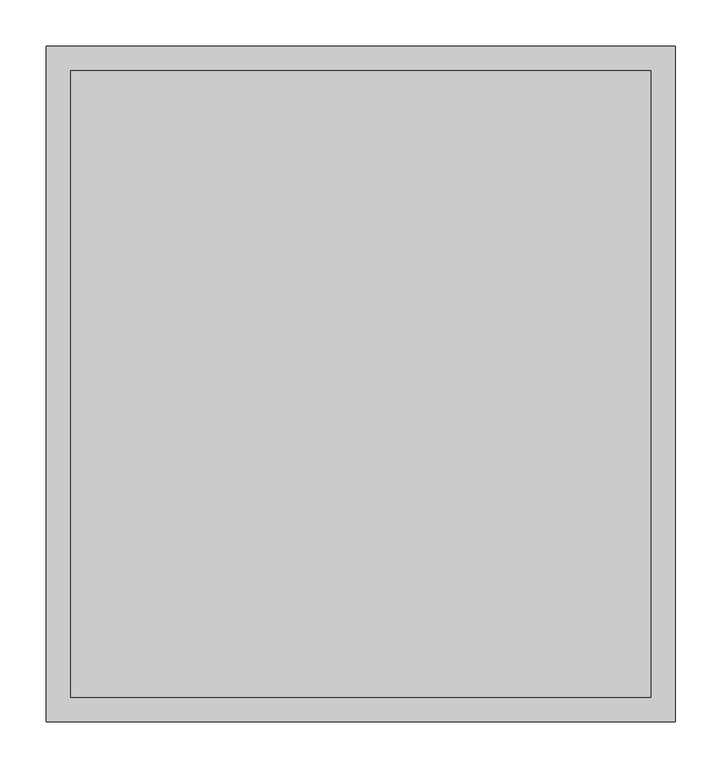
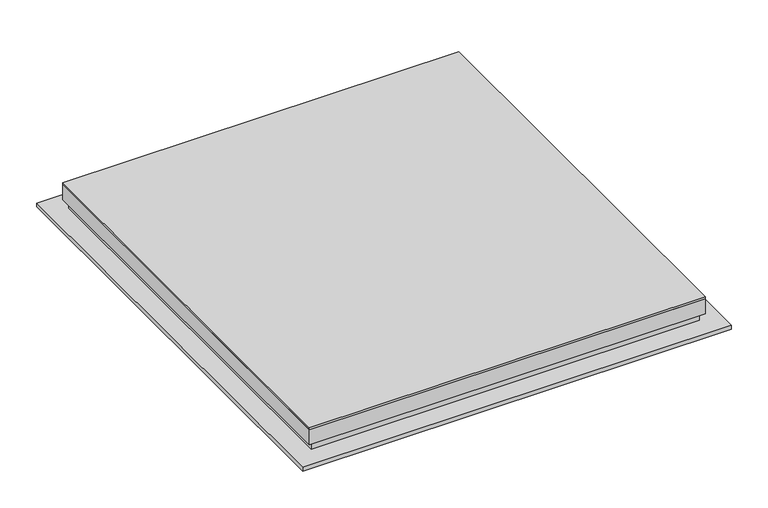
"""IFC4 building model written with IfcOpenShell, lengths in millimetres: furniture geometry, H10 Escotilla : H10 Escotilla."""

from ifc_helpers import new_model, si_unit, frame, origin, place, context, project, spatial, polyline, outline, extrude, faceted_brep, source, transform, mapped, element, save


def furniture_71a9488f(model_context):
    return source(origin(), model_context, "Body", "SolidModel", [
        extrude(outline(polyline([(312.0101495, 337.0101495), (312.0101495, -337.0101495), (-312.0101495, -337.0101495), (-312.0101495, 337.0101495), (312.0101495, 337.0101495)])), frame((0.0, 0.0, 44.0114356), z_axis=(0.0, 0.0, 1.0), x_axis=(1.0, 0.0, 0.0)), (0.0, 0.0, 1.0), 3.0),
        faceted_brep([(312.0101495, 337.0101495, 18.6114356), (312.0101495, 337.0101495, 44.0114356), (312.0101495, -337.0101495, 44.0114356), (312.0101495, -337.0101495, 18.6114356), (306.0101495, 331.0101495, 38.0114356), (306.0101495, 331.0101495, 18.6114356), (306.0101495, -331.0101495, 18.6114356), (306.0101495, -331.0101495, 38.0114356), (286.6101495, 311.6101495, 44.0114356), (286.6101495, 311.6101495, 38.0114356), (286.6101495, -311.6101495, 38.0114356), (286.6101495, -311.6101495, 44.0114356), (-312.0101495, -337.0101495, 44.0114356), (-312.0101495, -337.0101495, 18.6114356), (-306.0101495, -331.0101495, 18.6114356), (-306.0101495, -331.0101495, 38.0114356), (-286.6101495, -311.6101495, 38.0114356), (-286.6101495, -311.6101495, 44.0114356), (-312.0101495, 337.0101495, 44.0114356), (-312.0101495, 337.0101495, 18.6114356), (-306.0101495, 331.0101495, 18.6114356), (-306.0101495, 331.0101495, 38.0114356), (-286.6101495, 311.6101495, 38.0114356), (-286.6101495, 311.6101495, 44.0114356)], [[[0, 1, 2, 3]], [[4, 5, 6, 7]], [[8, 9, 10, 11]], [[3, 2, 12, 13]], [[7, 6, 14, 15]], [[11, 10, 16, 17]], [[13, 12, 18, 19]], [[15, 14, 20, 21]], [[17, 16, 22, 23]], [[19, 18, 1, 0]], [[3, 13, 19, 0], [5, 20, 14, 6]], [[21, 20, 5, 4]], [[7, 15, 21, 4], [9, 22, 16, 10]], [[23, 22, 9, 8]], [[1, 18, 12, 2], [11, 17, 23, 8]]]),
        faceted_brep([(-300.0, 325.0, 38.0), (-300.0, 325.0, 0.0), (300.0, 325.0, 0.0), (300.0, 325.0, 38.0), (-306.0, 331.0, 6.0), (-306.0, 331.0, 38.0), (306.0, 331.0, 38.0), (306.0, 331.0, 6.0), (-338.0, 363.0, 0.0), (-338.0, 363.0, 6.0), (338.0, 363.0, 6.0), (338.0, 363.0, 0.0), (300.0, -325.0, 0.0), (300.0, -325.0, 38.0), (306.0, -331.0, 38.0), (306.0, -331.0, 6.0), (338.0, -363.0, 6.0), (338.0, -363.0, 0.0), (-300.0, -325.0, 0.0), (-300.0, -325.0, 38.0), (-306.0, -331.0, 38.0), (-306.0, -331.0, 6.0), (-338.0, -363.0, 6.0), (-338.0, -363.0, 0.0)], [[[0, 1, 2, 3]], [[4, 5, 6, 7]], [[8, 9, 10, 11]], [[3, 2, 12, 13]], [[7, 6, 14, 15]], [[11, 10, 16, 17]], [[13, 12, 18, 19]], [[15, 14, 20, 21]], [[17, 16, 22, 23]], [[19, 18, 1, 0]], [[5, 20, 14, 6], [3, 13, 19, 0]], [[21, 20, 5, 4]], [[9, 22, 16, 10], [7, 15, 21, 4]], [[23, 22, 9, 8]], [[11, 17, 23, 8], [1, 18, 12, 2]]]),
    ])


if __name__ == "__main__":
    model = new_model("IFC4")
    model_context = context("Model", 3, world=origin())
    ifc_project = project(units=[si_unit("LENGTHUNIT", "METRE", prefix="MILLI")], contexts=[model_context])
    site = spatial("IfcSite", under=ifc_project)
    building = spatial("IfcBuilding", under=site)
    placement = place(None, origin())
    furniture_shape = furniture_71a9488f(model_context)
    element("IfcFurniture", 1, ObjectType="H10 Escotilla : H10 Escotilla", at=placement, inside=building, context=model_context, shape_type="MappedRepresentation", body=[
        mapped(furniture_shape, transform((0.0, 0.0, 0.0), x_axis=(1.0, 0.0, 0.0), y_axis=(0.0, 1.0, 0.0), z_axis=(0.0, 0.0, 1.0))),
    ])
    save(model, "model.ifc")
